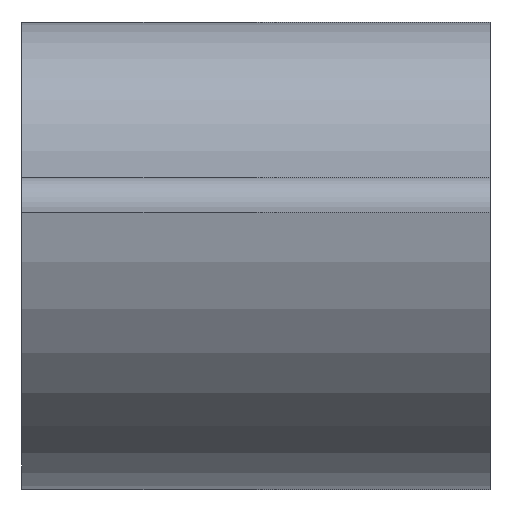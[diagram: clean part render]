
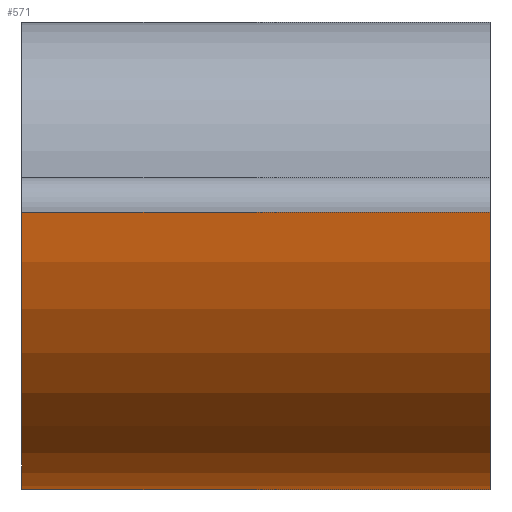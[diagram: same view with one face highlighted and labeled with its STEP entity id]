
A CAD part, front view. The second image highlights one B-rep face of the part: STEP entity #571.
In plain terms, the highlighted cylindrical face has radius 20 mm (diameter 40 mm), a partial arc.
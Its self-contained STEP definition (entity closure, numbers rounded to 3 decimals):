
#240=CARTESIAN_POINT('',(30.,20.124,17.778));
#241=VERTEX_POINT('',#240);
#249=CARTESIAN_POINT('',(30.,40.,0.));
#250=VERTEX_POINT('',#249);
#251=CARTESIAN_POINT('',(30.,40.,20.));
#252=DIRECTION('',(1.,0.,0.));
#253=DIRECTION('',(0.,0.,-1.));
#254=AXIS2_PLACEMENT_3D('',#251,#252,#253);
#255=CIRCLE('',#254,20.);
#256=EDGE_CURVE('',#241,#250,#255,.T.);
#315=CARTESIAN_POINT('',(0.,40.,0.));
#316=VERTEX_POINT('',#315);
#317=CARTESIAN_POINT('',(0.,40.,0.));
#318=DIRECTION('',(1.,0.,-0.));
#319=VECTOR('',#318,30.);
#320=LINE('',#317,#319);
#321=EDGE_CURVE('',#316,#250,#320,.T.);
#536=CARTESIAN_POINT('',(0.,20.124,17.778));
#537=VERTEX_POINT('',#536);
#545=CARTESIAN_POINT('',(0.,20.124,17.778));
#546=DIRECTION('',(1.,0.,-0.));
#547=VECTOR('',#546,30.);
#548=LINE('',#545,#547);
#549=EDGE_CURVE('',#537,#241,#548,.T.);
#554=CARTESIAN_POINT('',(0.,40.,20.));
#555=DIRECTION('',(1.,0.,0.));
#556=DIRECTION('',(0.,0.,-1.));
#557=AXIS2_PLACEMENT_3D('',#554,#555,#556);
#558=CYLINDRICAL_SURFACE('',#557,20.);
#559=ORIENTED_EDGE('',*,*,#256,.F.);
#560=ORIENTED_EDGE('',*,*,#549,.F.);
#561=CARTESIAN_POINT('',(0.,40.,20.));
#562=DIRECTION('',(1.,0.,0.));
#563=DIRECTION('',(0.,0.,-1.));
#564=AXIS2_PLACEMENT_3D('',#561,#562,#563);
#565=CIRCLE('',#564,20.);
#566=EDGE_CURVE('',#537,#316,#565,.T.);
#567=ORIENTED_EDGE('',*,*,#566,.T.);
#568=ORIENTED_EDGE('',*,*,#321,.T.);
#569=EDGE_LOOP('',(#559,#560,#567,#568));
#570=FACE_BOUND('',#569,.T.);
#571=ADVANCED_FACE('',(#570),#558,.T.);
